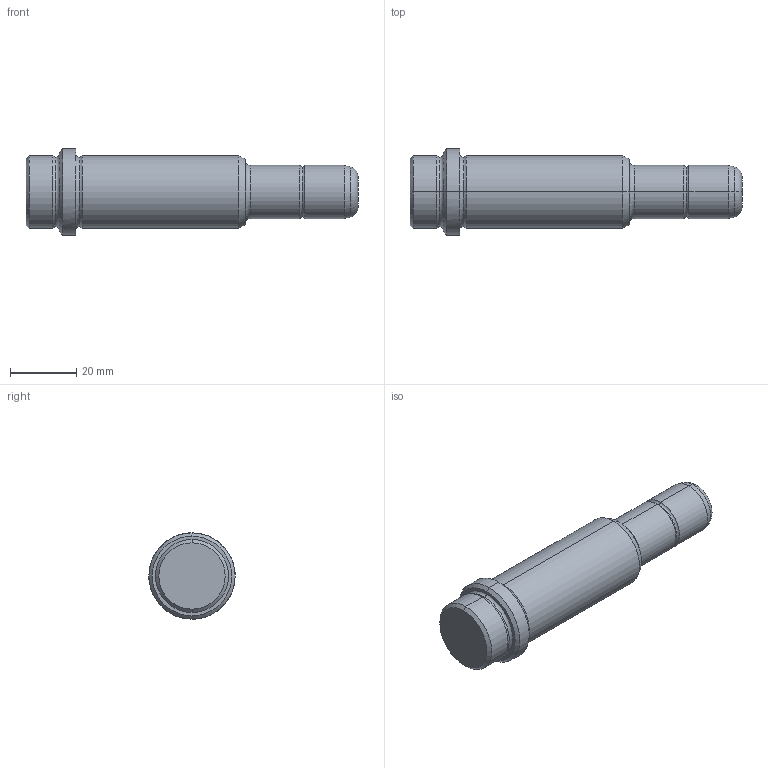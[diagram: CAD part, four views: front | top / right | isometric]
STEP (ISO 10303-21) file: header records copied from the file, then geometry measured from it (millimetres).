
FILE_DESCRIPTION(('CATIA V5 STEP Exchange'),'2;1');
FILE_NAME('C:\Users\Utente\Desktop\IO LAVORO\3D X SITO CF\X SITO\PLASTICA\357\357-16X66X100.stp','2021-08-14T09:18:05+00:00',('none'),('none'),'CATIA Version 5 Release 20 GA (IN-10)','CATIA V5 STEP AP203','none');
FILE_SCHEMA(('CONFIG_CONTROL_DESIGN'));
Length unit declared in the file: millimetre
Products named in the file (1): 357-16X66X100
Bounding box: 100 x 26 x 26 mm (x, y, z)
Volume: 32286.4 mm3; surface area: 7173.9 mm2
Topology: 1 solids, 1 shells, 39 faces, 112 edges, 78 vertices
Faces by surface type: torus 16, cylinder 10, cone 8, plane 5
Entity records: 1404 total; most frequent: CARTESIAN_POINT 342, ORIENTED_EDGE 224, DIRECTION 182, AXIS2_PLACEMENT_3D 126, EDGE_CURVE 112, CIRCLE 86, VERTEX_POINT 78, EDGE_LOOP 42
